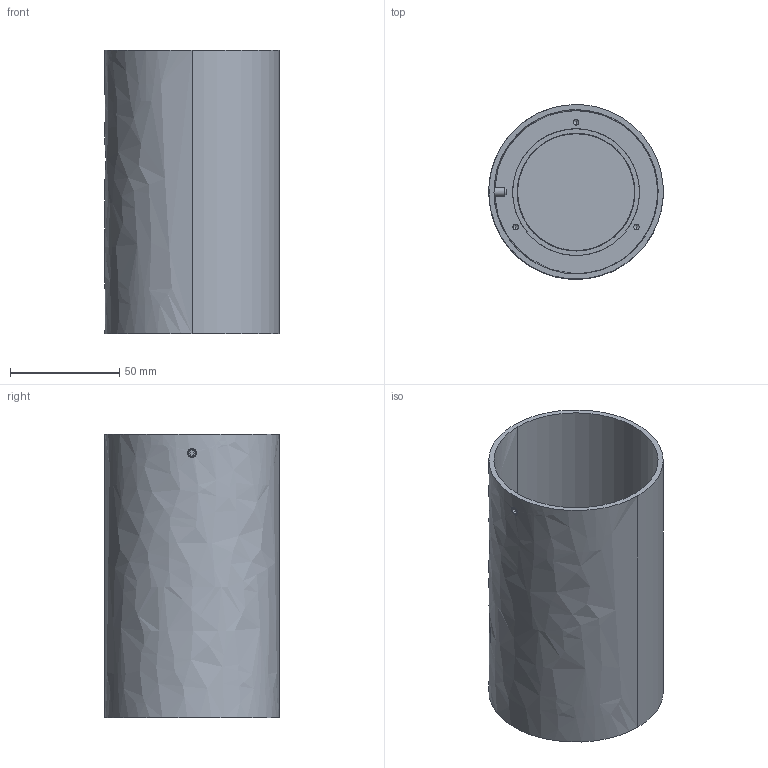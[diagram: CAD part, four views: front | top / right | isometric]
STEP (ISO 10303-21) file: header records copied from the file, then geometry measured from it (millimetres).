
FILE_DESCRIPTION(/* description */ (''),/* implementation_level */ '2;1');
FILE_NAME(/* name */ 'P127__.008',/* time_stamp */ '2024-06-18T14:29:52+02:00',/* author */ (''),/* organization */ (''),/* preprocessor_version */ 'ST-DEVELOPER v16.5',/* originating_system */ '',/* authorisation */ '');
FILE_SCHEMA (('AUTOMOTIVE_DESIGN'));
Length unit declared in the file: millimetre
Products named in the file (7): Document; socket set screw flat point_iso_ISO 4026 - M4 x 8-N; Blocco 14; 3300.0487000.00 (testata di chiusura cilindrica ALL con filetto ester
no)_3307.0487008.00; Blocco 12; 3100.0106000.00 (lente semisferica PC)_3100.0106008.00; Blocco 05
Assembly tree (6 placements, depth 3):
  Document
    socket set screw flat point_iso_ISO 4026 - M4 x 8-N
      Blocco 14
    3300.0487000.00 (testata di chiusura cilindrica ALL con filetto ester
no)_3307.0487008.00
      Blocco 12
    3100.0106000.00 (lente semisferica PC)_3100.0106008.00
      Blocco 05
Bounding box: 79.94 x 80 x 130 mm (x, y, z)
Volume: 74723.6 mm3; surface area: 85725.4 mm2
Topology: 1 solids, 65 shells, 74 faces, 314 edges, 298 vertices
Faces by surface type: bspline 54, plane 20
Entity records: 5063 total; most frequent: CARTESIAN_POINT 3297, ORIENTED_EDGE 328, EDGE_CURVE 306, VERTEX_POINT 298, B_SPLINE_CURVE_WITH_KNOTS 148, EDGE_LOOP 88, ADVANCED_FACE 74, FACE_OUTER_BOUND 74
